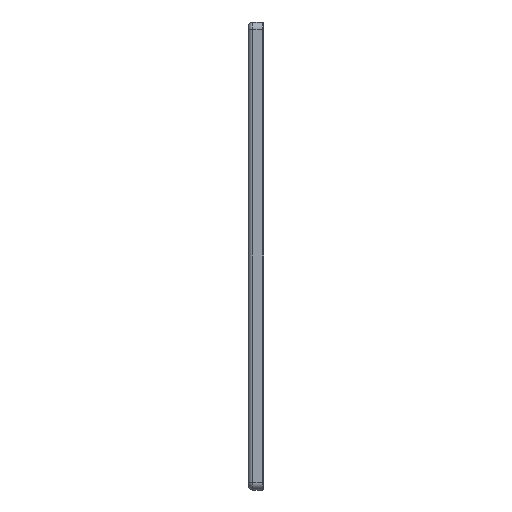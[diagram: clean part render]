
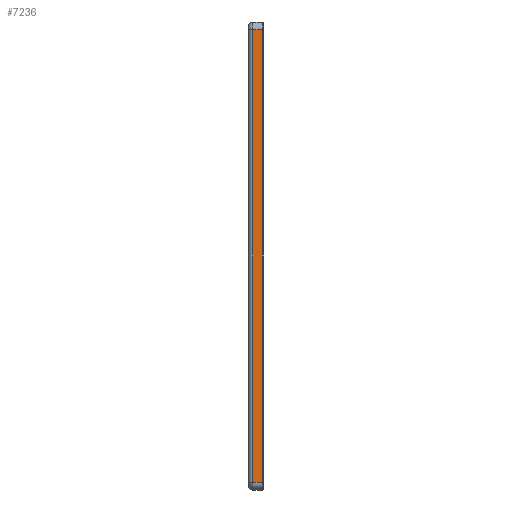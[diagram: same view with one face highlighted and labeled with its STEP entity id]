
A CAD part, left-side view. The second image highlights one B-rep face of the part: STEP entity #7236.
In plain terms, the highlighted planar face has unit normal (-1, 0, 0).
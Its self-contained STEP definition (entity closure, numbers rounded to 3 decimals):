
#1028 = FACE_OUTER_BOUND ( 'NONE', #7344, .T. ) ;
#1465 = CARTESIAN_POINT ( 'NONE',  ( -225., 10., 150. ) ) ;
#1466 = PLANE ( 'NONE',  #4902 ) ;
#1469 = DIRECTION ( 'NONE',  ( 1., 0., 0. ) ) ;
#1470 = DIRECTION ( 'NONE',  ( 0., 0., -1. ) ) ;
#1477 = CARTESIAN_POINT ( 'NONE',  ( -225., 1., -145. ) ) ;
#2794 = LINE ( 'NONE', #6592, #2962 ) ;
#2960 = LINE ( 'NONE', #6607, #2966 ) ;
#2962 = VECTOR ( 'NONE', #6606, 1000. ) ;
#2966 = VECTOR ( 'NONE', #6596, 1000. ) ;
#3011 = LINE ( 'NONE', #4974, #3041 ) ;
#3012 = LINE ( 'NONE', #4970, #3042 ) ;
#3041 = VECTOR ( 'NONE', #4985, 1000. ) ;
#3042 = VECTOR ( 'NONE', #4984, 1000. ) ;
#4902 = AXIS2_PLACEMENT_3D ( 'NONE', #1465, #1469, #1470 ) ;
#4970 = CARTESIAN_POINT ( 'NONE',  ( -225., 7., 150. ) ) ;
#4974 = CARTESIAN_POINT ( 'NONE',  ( -225., 10., 145. ) ) ;
#4984 = DIRECTION ( 'NONE',  ( 0., 0., -1. ) ) ;
#4985 = DIRECTION ( 'NONE',  ( 0., 1., 0. ) ) ;
#5357 = ORIENTED_EDGE ( 'NONE', *, *, #5806, .T. ) ;
#5358 = ORIENTED_EDGE ( 'NONE', *, *, #5737, .T. ) ;
#5360 = ORIENTED_EDGE ( 'NONE', *, *, #5738, .T. ) ;
#5361 = ORIENTED_EDGE ( 'NONE', *, *, #5805, .T. ) ;
#5737 = EDGE_CURVE ( 'NONE', #6113, #8380, #2794, .T. ) ;
#5738 = EDGE_CURVE ( 'NONE', #8380, #6114, #2960, .T. ) ;
#5805 = EDGE_CURVE ( 'NONE', #6110, #6113, #3012, .T. ) ;
#5806 = EDGE_CURVE ( 'NONE', #6114, #6110, #3011, .T. ) ;
#6110 = VERTEX_POINT ( 'NONE', #6419 ) ;
#6113 = VERTEX_POINT ( 'NONE', #6421 ) ;
#6114 = VERTEX_POINT ( 'NONE', #6422 ) ;
#6419 = CARTESIAN_POINT ( 'NONE',  ( -225., 7., 145. ) ) ;
#6421 = CARTESIAN_POINT ( 'NONE',  ( -225., 7., -145. ) ) ;
#6422 = CARTESIAN_POINT ( 'NONE',  ( -225., 1., 145. ) ) ;
#6592 = CARTESIAN_POINT ( 'NONE',  ( -225., 10., -145. ) ) ;
#6596 = DIRECTION ( 'NONE',  ( 0., 0., 1. ) ) ;
#6606 = DIRECTION ( 'NONE',  ( 0., -1., 0. ) ) ;
#6607 = CARTESIAN_POINT ( 'NONE',  ( -225., 1., 150. ) ) ;
#7236 = ADVANCED_FACE ( 'NONE', ( #1028 ), #1466, .F. ) ;
#7344 = EDGE_LOOP ( 'NONE', ( #5358, #5360, #5357, #5361 ) ) ;
#8380 = VERTEX_POINT ( 'NONE', #1477 ) ;
